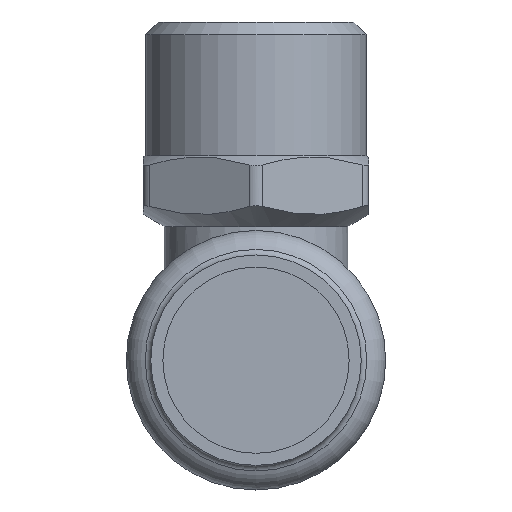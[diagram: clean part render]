
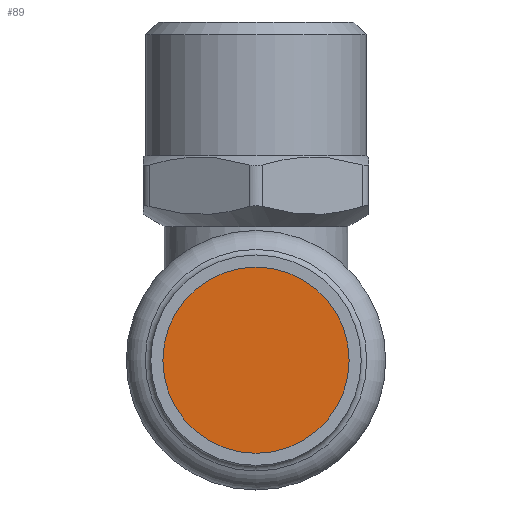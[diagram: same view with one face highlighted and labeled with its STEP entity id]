
A CAD part, front view. The second image highlights one B-rep face of the part: STEP entity #89.
In plain terms, the highlighted planar face has unit normal (0, -1, 0).
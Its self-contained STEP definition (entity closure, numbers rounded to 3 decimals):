
#89=ADVANCED_FACE('',(#388),#390,.T.);
#388=FACE_BOUND('',#389,.T.);
#389=EDGE_LOOP('',(#524));
#390=PLANE('',#391);
#391=AXIS2_PLACEMENT_3D('',#392,#393,#394);
#392=CARTESIAN_POINT('',(0.,-41.029,0.));
#393=DIRECTION('',(0.,-1.,0.));
#394=DIRECTION('',(0.,0.,-1.));
#524=ORIENTED_EDGE('',*,*,#589,.T.);
#589=EDGE_CURVE('',#706,#706,#707,.F.);
#706=VERTEX_POINT('',#1877);
#707=CIRCLE('',#1878,11.15);
#1877=CARTESIAN_POINT('',(0.,-41.029,11.15));
#1878=AXIS2_PLACEMENT_3D('',#1879,#1880,#1881);
#1879=CARTESIAN_POINT('',(0.,-41.029,0.));
#1880=DIRECTION('',(0.,1.,0.));
#1881=DIRECTION('',(0.,0.,1.));
